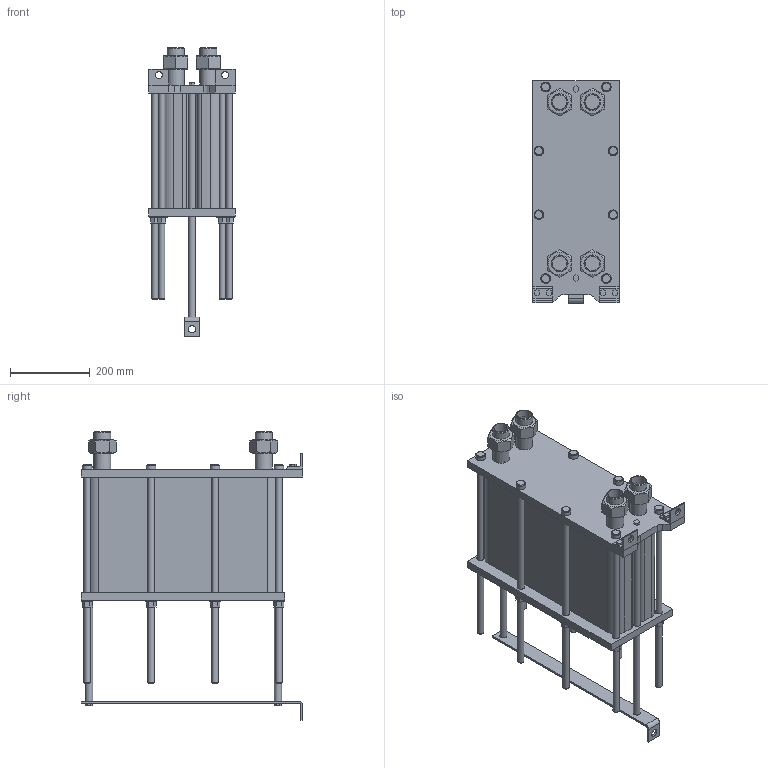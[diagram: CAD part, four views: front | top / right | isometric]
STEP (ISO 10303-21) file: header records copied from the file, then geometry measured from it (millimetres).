
FILE_DESCRIPTION(/* description */ (''),/* implementation_level */ '2;1');
FILE_NAME(/* name */ 'C:\Users\zhuro\Desktop\ENCO\TO\ЭН-004\ЭН-0,5-004-93-1.stp',/* time_stamp */ '2022-06-06T10:51:35+03:00',/* author */ ('zhuro'),/* organization */ (''),/* preprocessor_version */ 'ST-DEVELOPER v18.1',/* originating_system */ 'Autodesk Inventor 2022',/* authorisation */ '');
FILE_SCHEMA (('AUTOMOTIVE_DESIGN { 1 0 10303 214 3 1 1 }'));
Length unit declared in the file: millimetre
Products named in the file (1): ЭН-0,5-004-93-1
Bounding box: 216 x 555 x 723.4 mm (x, y, z)
Volume: 27351355.4 mm3; surface area: 1582959.7 mm2
Topology: 40 solids, 40 shells, 403 faces, 865 edges, 574 vertices
Faces by surface type: plane 272, cylinder 103, cone 28
Full cylindrical faces by diameter (mm): 10 x4, 16 x16, 18 x29, 20 x2, 24 x8, 28 x8, 36.3 x5, 42.3 x9
Entity records: 11137 total; most frequent: CARTESIAN_POINT 1939, DIRECTION 1879, ORIENTED_EDGE 1730, EDGE_CURVE 865, AXIS2_PLACEMENT_3D 658, VERTEX_POINT 574, LINE 563, VECTOR 563
